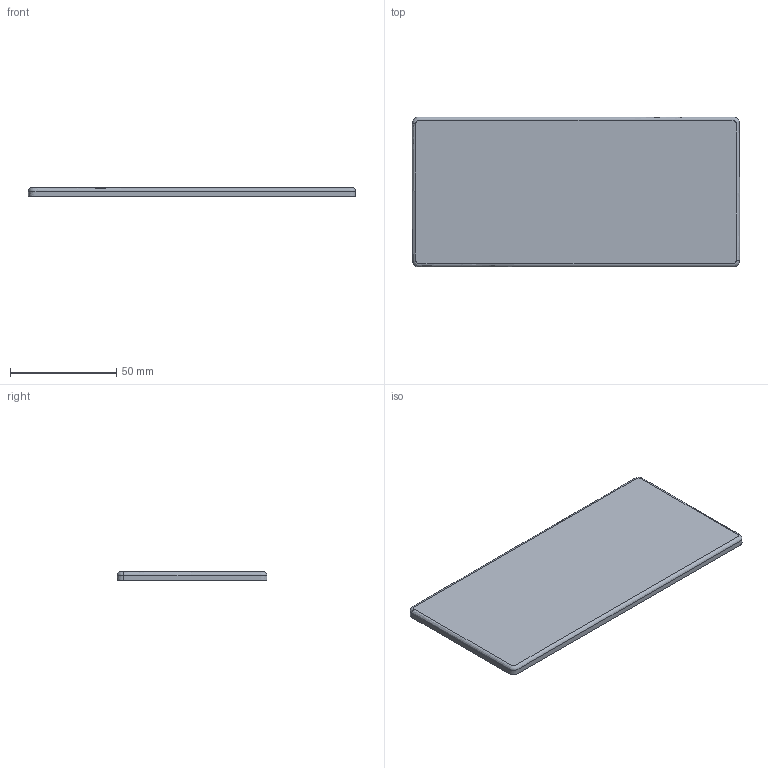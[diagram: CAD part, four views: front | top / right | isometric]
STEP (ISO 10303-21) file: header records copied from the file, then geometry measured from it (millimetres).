
FILE_DESCRIPTION(/* description */ (''),/* implementation_level */ '2;1');
FILE_NAME(/* name */ 'leet_sequencer_display_front_square',/* time_stamp */ '2020-11-13T21:11:58+01:00',/* author */ (''),/* organization */ (''),/* preprocessor_version */ 'ST-DEVELOPER v10',/* originating_system */ '',/* authorisation */ '');
FILE_SCHEMA (('CONFIG_CONTROL_DESIGN'));
Length unit declared in the file: millimetre
Products named in the file (1): 1
Bounding box: 154 x 70.6 x 4 mm (x, y, z)
Volume: 20222.5 mm3; surface area: 33824.3 mm2
Topology: 1 solids, 1 shells, 1447 faces, 3678 edges, 2362 vertices
Faces by surface type: plane 1313, bspline 134
Entity records: 43983 total; most frequent: CARTESIAN_POINT 19062, ORIENTED_EDGE 7356, EDGE_CURVE 3678, B_SPLINE_CURVE_WITH_KNOTS 2895, VERTEX_POINT 2362, EDGE_LOOP 1576, ADVANCED_FACE 1447, FACE_OUTER_BOUND 1447
